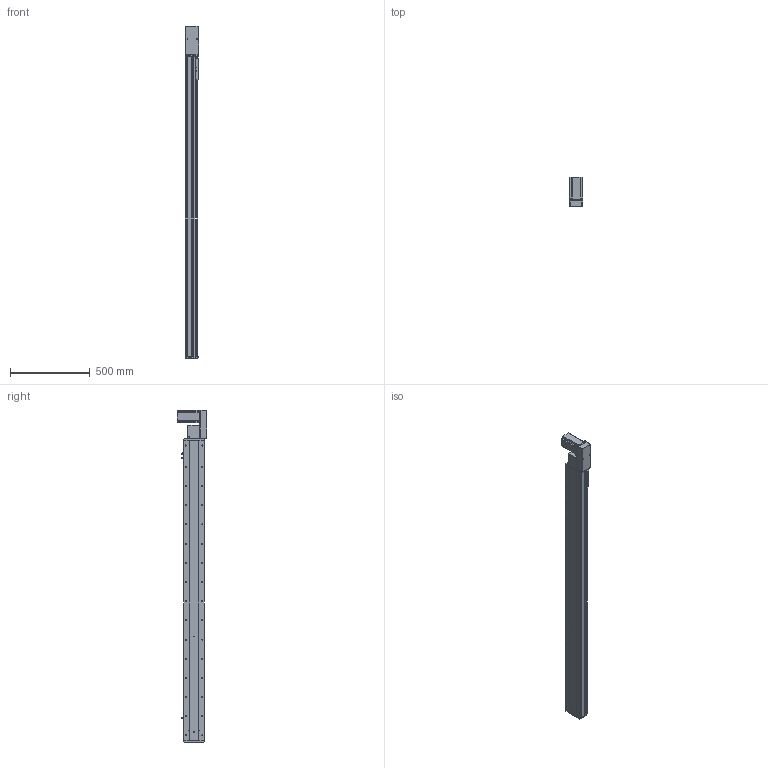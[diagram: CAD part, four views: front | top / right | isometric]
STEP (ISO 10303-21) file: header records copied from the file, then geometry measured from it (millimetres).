
FILE_DESCRIPTION (( 'STEP AP214' ), '1' );
FILE_NAME ('KSD130B-S1650-MLB-CM.STEP', '2019-11-14T03:16:41', ( '微软用户' ), ( '微软中国' ), 'SwSTEP 2.0', 'SolidWorks 2014', '' );
FILE_SCHEMA (( 'AUTOMOTIVE_DESIGN' ));
Length unit declared in the file: millimetre
Products named in the file (12): KSD130B-S1650-MLB-CM; 台达ECMA－C20807AS伺服电机; 130宽模组保护罩上下左右折-同步带; 130宽模组马达安装板连板左右折同步带; 覜茼え100遵圉猾敕; U倰嫖萇EEㄜSX672; 130宽盖板半封闭同步带-1650行程; 130宽马达安装板同步带左-改; 130宽马达安装板同步带半封闭; 130宽同步带安装座半封闭; 130宽端盖同步带半封闭; 130宽底板半封闭同步带-1650行程
Assembly tree (13 placements, depth 2):
  KSD130B-S1650-MLB-CM
    130宽底板半封闭同步带-1650行程
    130宽端盖同步带半封闭
    130宽同步带安装座半封闭
    130宽马达安装板同步带半封闭
    130宽马达安装板同步带左-改
    130宽盖板半封闭同步带-1650行程
    U倰嫖萇EEㄜSX672  x3
    覜茼え100遵圉猾敕
    130宽模组马达安装板连板左右折同步带
    130宽模组保护罩上下左右折-同步带
    台达ECMA－C20807AS伺服电机
Bounding box: 82.5 x 184.8 x 2077 mm (x, y, z)
Volume: 6742045.2 mm3; surface area: 1899858.4 mm2
Topology: 14 solids, 14 shells, 1697 faces, 4921 edges, 3121 vertices
Faces by surface type: cylinder 832, plane 646, cone 219
Entity records: 57499 total; most frequent: CARTESIAN_POINT 11046, DIRECTION 8675, ORIENTED_EDGE 8390, EDGE_CURVE 4195, AXIS2_PLACEMENT_3D 3190, VERTEX_POINT 2745, LINE 2295, VECTOR 2295
